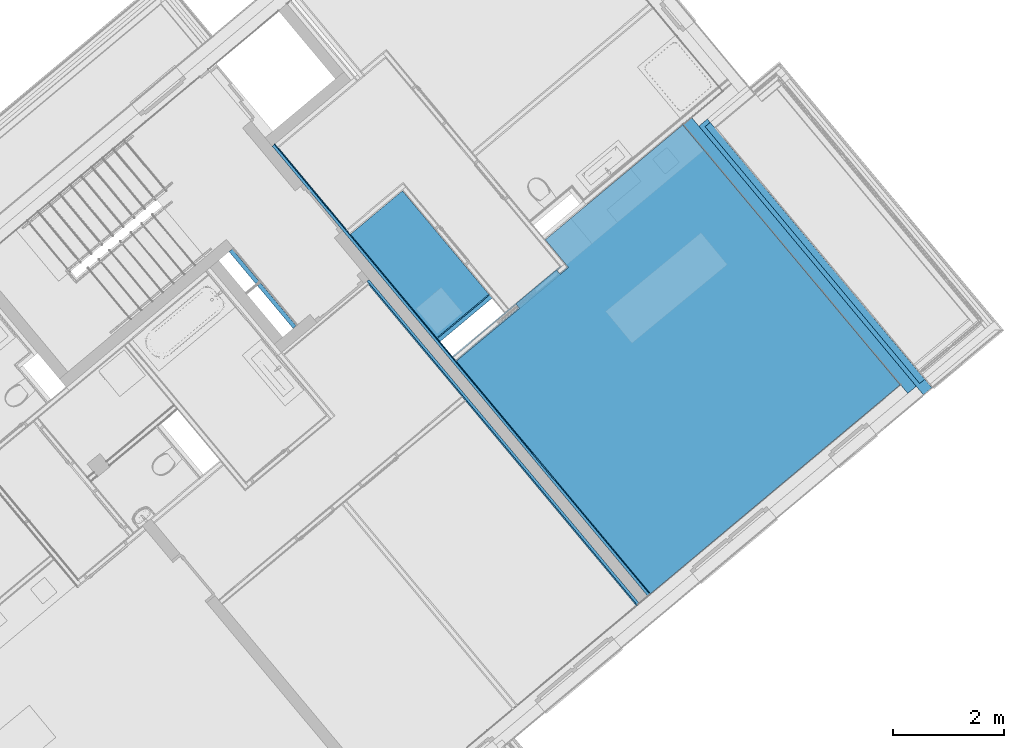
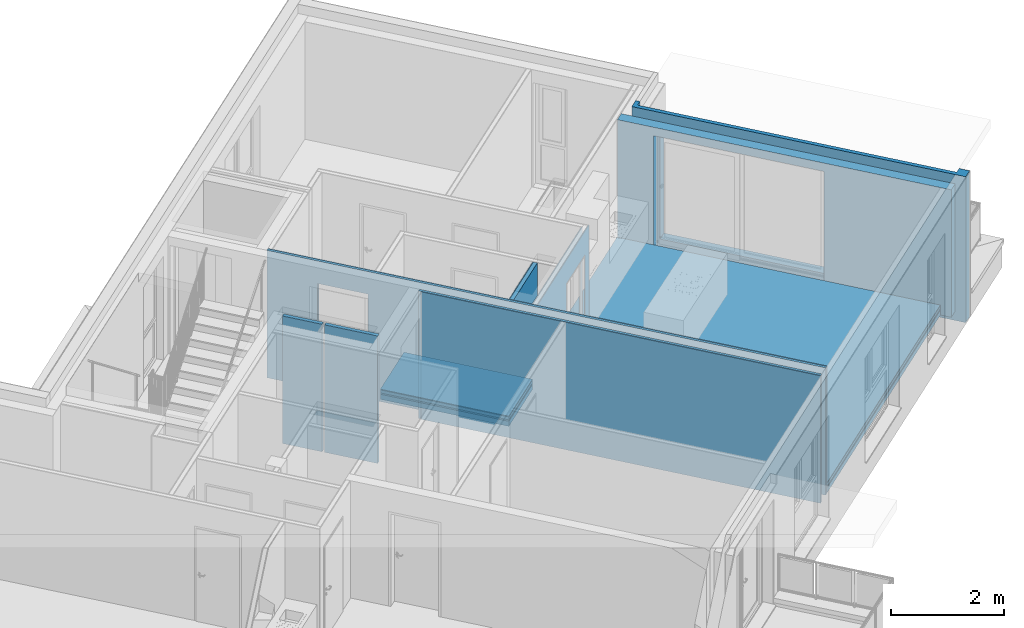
# One storey, part 29 of 53: 17 building element parts, 3 openings, 8 elements without a shape of their own, plus 2 elements that do not belong to this part.
"""IFC4 building model written with IfcOpenShell, lengths in metres."""

from ifc_helpers import new_model, entity, si_unit, converted_unit, derived_unit, direction, frame, origin_with_axes, place, context, subcontext, project, spatial, polygons, material, type_object, element, aggregate, save


model = new_model("IFC4")

# Units and contexts
model_context = context("Model", 3, precision=1e-05, world=origin_with_axes(), true_north=direction((0.0, 1.0)))
body_context = subcontext(model_context, "Body", "Model", "MODEL_VIEW")
ifc_project = project(units=[si_unit("LENGTHUNIT", "METRE"), si_unit("AREAUNIT", "SQUARE_METRE"), si_unit("VOLUMEUNIT", "CUBIC_METRE"), converted_unit("PLANEANGLEUNIT", "DEGREE", entity("IfcPlaneAngleMeasure", 0.0174532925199), si_unit("PLANEANGLEUNIT", "RADIAN"), dimensions=[0, 0, 0, 0, 0, 0, 0]), converted_unit("TIMEUNIT", "Year", entity("IfcTimeMeasure", 31556926.0), si_unit("TIMEUNIT", "SECOND"), dimensions=[0, 0, 1, 0, 0, 0, 0]), si_unit("MASSUNIT", "GRAM", prefix="KILO"), si_unit("THERMODYNAMICTEMPERATUREUNIT", "DEGREE_CELSIUS"), si_unit("LUMINOUSINTENSITYUNIT", "LUMEN"), si_unit("ENERGYUNIT", "JOULE", prefix="MEGA"), derived_unit("THERMALCONDUCTANCEUNIT", [(si_unit("POWERUNIT", "WATT"), 1), (si_unit("LENGTHUNIT", "METRE"), -1), (si_unit("THERMODYNAMICTEMPERATUREUNIT", "KELVIN"), -1)]), derived_unit("SPECIFICHEATCAPACITYUNIT", [(si_unit("ENERGYUNIT", "JOULE"), 1), (si_unit("MASSUNIT", "GRAM", prefix="KILO"), -1), (si_unit("THERMODYNAMICTEMPERATUREUNIT", "KELVIN"), -1)]), derived_unit("MASSDENSITYUNIT", [(si_unit("MASSUNIT", "GRAM", prefix="KILO"), 1), (si_unit("VOLUMEUNIT", "CUBIC_METRE"), -1)])], contexts=[model_context])

# Site, building, storey
site_placement = place(None, frame((-0.00153261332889, -0.00661245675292, 0.0), z_axis=(0.0, 0.0, 1.0), x_axis=(1.0, 0.0, 0.0)))
site = spatial("IfcSite", under=ifc_project, at=site_placement, Name="Gelände", CompositionType="ELEMENT")
building_placement = place(site_placement, origin_with_axes())
building = spatial("IfcBuilding", under=site, at=building_placement, Name="Gebäude", CompositionType="ELEMENT")
storey_placement = place(building_placement, frame((0.0, 0.0, 2.74), z_axis=(0.0, 0.0, 1.0), x_axis=(1.0, 0.0, 0.0)))
storey = spatial("IfcBuildingStorey", under=building, at=storey_placement, Name="OG1", CompositionType="ELEMENT", Elevation=2.74)

# Wall, opening, building element parts
wall_type_1 = type_object("IfcWallType", Name="IW LB 01 Leichtbautrennwand einfach 10,5 cm 105", PredefinedType="NOTDEFINED")
wall_1_placement = place(storey_placement, frame((4.75634479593, 20.7201278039, 0.0), z_axis=(0.0, 0.0, 1.0), x_axis=(0.767768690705, 0.640727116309, 0.0)))
wall_1 = element("IfcWall", 1, at=wall_1_placement, inside=storey, type_object=wall_type_1, Name="Wand-012", PredefinedType="NOTDEFINED")
opening_1_placement = place(wall_1_placement, frame((2.0266659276, 0.0, 0.22), z_axis=(0.0, 0.0, 1.0), x_axis=(1.0, 0.0, 0.0)))
element("IfcOpeningElement", 2, at=opening_1_placement, cuts=wall_1, Name="Tür-001", context=body_context, identifier="Reference", shape_type="Tessellation", body=[
    polygons([(-0.48, -1.32747549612, -0.22), (-0.48, -1.32747549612, 2.03), (-0.48, 1.43247549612, 2.03), (-0.48, 1.43247549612, -0.22), (-0.48, 0.09, 2.0), (-0.48, 0.015, 2.0), (-0.48, 0.015, 0.0), (-0.48, 0.09, 0.0), (0.48, -1.32747549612, -0.22), (0.48, -1.32747549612, 2.03), (0.48, 1.43247549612, 2.03), (0.48, 1.43247549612, -0.22), (-1.44, 0.09, 2.0), (-1.44, 0.015, 2.0), (-1.44, 0.015, 0.0), (-1.44, 0.09, 0.0)], [[[1, 2, 3, 4], [5, 6, 7, 8]], [[1, 9, 10, 2]], [[2, 10, 11, 3]], [[11, 12, 4, 3]], [[9, 1, 4, 12]], [[6, 5, 13, 14]], [[7, 6, 14, 15]], [[8, 7, 15, 16]], [[5, 8, 16, 13]], [[10, 9, 12, 11]], [[14, 13, 16, 15]]], closed=True),
])
ifc_material_1 = material(Name="Gipskarton")
building_element_part_1_placement = place(wall_1_placement, origin_with_axes())
building_element_part_1 = element("IfcBuildingElementPart", 3, at=building_element_part_1_placement, material=ifc_material_1, Name="Gipskarton", PredefinedType="NOTDEFINED", context=body_context, shape_type="Tessellation", body=[
    polygons([(1.5466659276, 0.09, 0.22), (1.5466659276, 0.09, 2.25), (2.5066659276, 0.09, 2.25), (2.5066659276, 0.09, 0.22), (2.50666590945, 0.09, 0.0), (2.6064142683, 0.09, 0.0), (2.6064142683, 0.09, 2.76), (0.0649861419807, 0.09, 2.76), (0.06498614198, 0.09, 0.0), (1.5466659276, 0.09, 0.0), (1.5466659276, 0.104999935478, 0.22), (1.5466659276, 0.104999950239, 2.25), (2.5066659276, 0.104999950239, 2.25), (2.5066659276, 0.104999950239, 0.22), (2.5066659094, 0.104999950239, 0.0), (2.60640484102, 0.105, 0.0), (2.60640484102, 0.105, 2.76), (0.0649838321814, 0.105, 2.76), (0.0649838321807, 0.105, 0.0), (1.5466659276, 0.104999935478, 0.0)], [[[1, 2, 3, 4, 5, 6, 7, 8, 9, 10]], [[2, 1, 11, 12]], [[3, 2, 12, 13]], [[4, 3, 13, 14]], [[4, 14, 15, 5]], [[15, 16, 6, 5]], [[17, 7, 6, 16]], [[18, 8, 7, 17]], [[9, 8, 18, 19]], [[10, 9, 19, 20]], [[11, 1, 10, 20]], [[12, 11, 20, 19, 18, 17, 16, 15, 14, 13]]], closed=True),
])
building_element_part_2_placement = place(wall_1_placement, origin_with_axes())
building_element_part_2 = element("IfcBuildingElementPart", 4, at=building_element_part_2_placement, material=ifc_material_1, Name="Gipskarton", PredefinedType="NOTDEFINED", context=body_context, shape_type="Tessellation", body=[
    polygons([(1.5466659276, 0.0, 0.22), (1.5466659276, 0.0, 2.25), (2.5066659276, 0.0, 2.25), (2.5066659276, 0.0, 0.22), (2.50666590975, 0.0, 0.0), (2.6964708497, 0.0, 0.0), (2.6964708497, 0.0, 2.76), (0.065000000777, 0.0, 2.76), (0.0650000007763, 0.0, 0.0), (1.5466659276, 0.0, 0.0), (1.5466659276, 0.015, 0.22), (1.5466659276, 0.015, 2.25), (2.5066659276, 0.015, 2.25), (2.5066659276, 0.015, 0.22), (2.5066659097, 0.015, 0.0), (2.69646142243, 0.015, 0.0), (2.69646142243, 0.015, 2.76), (0.0649976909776, 0.015, 2.76), (0.0649976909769, 0.015, 0.0), (1.5466659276, 0.015, 0.0)], [[[1, 2, 3, 4, 5, 6, 7, 8, 9, 10]], [[2, 1, 11, 12]], [[3, 2, 12, 13]], [[4, 3, 13, 14]], [[4, 14, 15, 5]], [[15, 16, 6, 5]], [[17, 7, 6, 16]], [[18, 8, 7, 17]], [[9, 8, 18, 19]], [[10, 9, 19, 20]], [[11, 1, 10, 20]], [[12, 11, 20, 19, 18, 17, 16, 15, 14, 13]]], closed=True),
])
aggregate(wall_1, [building_element_part_1, building_element_part_2])

wall_type_2 = type_object("IfcWallType", Name="AW EG 420", PredefinedType="NOTDEFINED")
wall_2_placement = place(storey_placement, frame((9.48027034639, 24.9670510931, -0.2), z_axis=(0.0, 0.0, 1.0), x_axis=(0.641209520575, -0.76736585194, 0.0)))
wall_2 = element("IfcWall", 5, at=wall_2_placement, inside=storey, type_object=wall_type_2, Name="Wand-002", PredefinedType="NOTDEFINED")
opening_2_placement = place(wall_2_placement, frame((1.87886023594, 0.0, 0.42), z_axis=(0.0, 0.0, 1.0), x_axis=(1.0, 0.0, 0.0)))
element("IfcOpeningElement", 6, at=opening_2_placement, cuts=wall_2, Name="Tür-001", context=body_context, identifier="Reference", shape_type="Tessellation", body=[
    polygons([(-1.56, -0.215, 2.31), (1.56, -0.215, 2.31), (1.56, 3.00714672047, 2.31), (-1.56, 3.00714672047, 2.31), (1.61, -0.215, -0.22), (-1.61, -0.215, -0.22), (-1.61, -0.215, 2.36), (1.61, -0.215, 2.36), (1.56, -0.215, 0.0), (-1.56, -0.215, 0.0), (1.56, 3.00714672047, 0.0), (-1.56, 3.00714672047, 0.0), (1.61, -3.42714672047, -0.22), (-1.61, -3.42714672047, -0.22), (-1.61, -3.42714672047, 2.36), (1.61, -3.42714672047, 2.36)], [[[1, 2, 3, 4]], [[5, 6, 7, 8], [9, 2, 1, 10]], [[2, 9, 11, 3]], [[3, 11, 12, 4]], [[10, 1, 4, 12]], [[6, 5, 13, 14]], [[7, 6, 14, 15]], [[8, 7, 15, 16]], [[5, 8, 16, 13]], [[9, 10, 12, 11]], [[15, 14, 13, 16]]], closed=True),
])
ifc_material_2 = material(Name="EPS 1")
building_element_part_3_placement = place(wall_2_placement, origin_with_axes())
building_element_part_3 = element("IfcBuildingElementPart", 7, at=building_element_part_3_placement, material=ifc_material_2, Name="EPS 1", PredefinedType="NOTDEFINED", context=body_context, shape_type="Tessellation", body=[
    polygons([(6.0946691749, -0.215, 3.16), (-0.2149998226, -0.215, 3.16), (-0.2149998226, -0.215, 0.0), (6.0946691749, -0.215, 0.0), (0.318860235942, -0.215, 0.42), (0.318860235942, -0.215, 2.73), (3.43886023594, -0.215, 2.73), (3.43886023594, -0.215, 0.42), (6.09453892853, -0.015, 3.16), (5.89466913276, -0.015, 3.16), (5.89466913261, -0.135000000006, 3.16), (-0.134999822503, -0.135000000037, 3.16), (-0.134999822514, -0.015, 3.16), (-0.214999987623, -0.015, 3.16), (-0.214999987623, -0.015, 0.0), (-0.134999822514, -0.015, 0.0), (-0.134999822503, -0.135000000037, 0.0), (5.89466913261, -0.135000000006, 0.0), (5.89466913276, -0.015, 0.0), (6.09453892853, -0.015, 0.0), (0.318860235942, -0.015, 0.42), (0.318860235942, -0.015, 2.73), (3.43886023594, -0.015, 2.73), (3.43886023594, -0.015, 0.42), (-0.134999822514, -0.015, 2.96), (5.89466913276, -0.015, 2.96), (5.89466913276, -0.015, 0.2), (-0.134999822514, -0.015, 0.2), (5.89466913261, -0.135000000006, 2.96), (-0.134999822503, -0.135000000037, 2.96), (-0.134999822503, -0.135000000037, 0.2), (5.89466913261, -0.135000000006, 0.2)], [[[1, 2, 3, 4], [5, 6, 7, 8]], [[9, 10, 11, 12, 13, 14, 2, 1]], [[2, 14, 15, 3]], [[15, 16, 17, 18, 19, 20, 4, 3]], [[1, 4, 20, 9]], [[21, 22, 6, 5]], [[22, 23, 7, 6]], [[23, 24, 8, 7]], [[24, 21, 5, 8]], [[15, 14, 13, 25, 26, 10, 9, 20, 19, 27, 28, 16], [21, 24, 23, 22]], [[10, 26, 29, 11]], [[11, 29, 30, 12]], [[13, 12, 30, 25]], [[28, 31, 17, 16]], [[17, 31, 32, 18]], [[19, 18, 32, 27]], [[25, 30, 29, 26]], [[27, 32, 31, 28]]], closed=True),
])
ifc_material_3 = material(Name="Stahlbeton Wand")
building_element_part_4_placement = place(wall_2_placement, origin_with_axes())
building_element_part_4 = element("IfcBuildingElementPart", 8, at=building_element_part_4_placement, material=ifc_material_3, Name="Stahlbeton Wand", PredefinedType="NOTDEFINED", context=body_context, shape_type="Tessellation", body=[
    polygons([(0.268860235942, -0.215, 2.78), (0.268860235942, -0.215, 0.2), (-0.214999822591, -0.215000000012, 0.2), (-0.414999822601, -0.215, 0.2), (-0.414999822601, -0.215, 2.96), (-0.214999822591, -0.215000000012, 2.96), (5.89466913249, -0.215000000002, 2.96), (5.89466913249, -0.215000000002, 0.2), (3.48886023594, -0.215, 0.2), (3.48886023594, -0.215, 2.78), (0.268860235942, -0.415, 2.78), (0.268860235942, -0.415, 0.2), (-0.414999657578, -0.415, 0.2), (-0.414999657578, -0.415, 2.96), (5.89479937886, -0.415, 2.96), (5.89479937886, -0.415, 0.2), (3.48886023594, -0.415, 0.2), (3.48886023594, -0.415, 2.78)], [[[1, 2, 3, 4, 5, 6, 7, 8, 9, 10]], [[2, 1, 11, 12]], [[2, 12, 13, 4, 3]], [[5, 4, 13, 14]], [[6, 5, 14, 15, 7]], [[15, 16, 8, 7]], [[17, 9, 8, 16]], [[10, 9, 17, 18]], [[1, 10, 18, 11]], [[18, 17, 16, 15, 14, 13, 12, 11]]], closed=True),
])
aggregate(wall_2, [building_element_part_3, building_element_part_4])

# Wall, building element parts
wall_type_3 = type_object("IfcWallType", Name="LB 9,0 cm einfache Vorsatzschale  90", PredefinedType="NOTDEFINED")
wall_3_placement = place(storey_placement, frame((4.46491081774, 21.0692371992, 0.0), z_axis=(0.0, 0.0, 1.0), x_axis=(0.767365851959, 0.641209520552, 0.0)))
wall_3 = element("IfcWall", 9, at=wall_3_placement, inside=storey, type_object=wall_type_3, Name="Wand-006", PredefinedType="NOTDEFINED")
building_element_part_5_placement = place(wall_3_placement, origin_with_axes())
building_element_part_5 = element("IfcBuildingElementPart", 10, at=building_element_part_5_placement, material=ifc_material_1, Name="Gipskarton", PredefinedType="NOTDEFINED", context=body_context, shape_type="Tessellation", body=[
    polygons([(0.0650427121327, 0.09, 2.76), (0.0650355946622, 0.075, 2.76), (1.28718371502, 0.075, 2.76), (1.28718371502, 0.09, 2.76), (0.0650355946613, 0.075, 0.0), (0.0650427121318, 0.09, 0.0), (1.28718371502, 0.075, 0.0), (1.28718371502, 0.09, 0.0)], [[[1, 2, 3, 4]], [[5, 2, 1, 6]], [[2, 5, 7, 3]], [[4, 3, 7, 8]], [[6, 1, 4, 8]], [[5, 6, 8, 7]]], closed=True),
])
ifc_material_4 = material(Name="Mineralwolle weich")
building_element_part_6_placement = place(wall_3_placement, origin_with_axes())
building_element_part_6 = element("IfcBuildingElementPart", 11, at=building_element_part_6_placement, material=ifc_material_4, Name="Mineralwolle weich", PredefinedType="NOTDEFINED", context=body_context, shape_type="Tessellation", body=[
    polygons([(1.28718371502, 0.075, 2.76), (0.0650355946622, 0.075, 2.76), (0.0650000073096, 0.0, 2.76), (1.28718371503, 0.0, 2.76), (1.28718371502, 0.075, 0.0), (0.0650355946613, 0.075, 0.0), (0.0650000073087, 0.0, 0.0), (1.28718371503, 0.0, 0.0)], [[[1, 2, 3, 4]], [[5, 6, 2, 1]], [[6, 7, 3, 2]], [[4, 3, 7, 8]], [[5, 1, 4, 8]], [[8, 7, 6, 5]]], closed=True),
])
aggregate(wall_3, [building_element_part_5, building_element_part_6])

wall_type_4 = type_object("IfcWallType", Name="LB 6,5 cm einfach Vorsatzschale 65", PredefinedType="NOTDEFINED")
wall_4_placement = place(storey_placement, frame((3.22700750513, 22.1386079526, 0.0), z_axis=(0.0, 0.0, 1.0), x_axis=(0.640845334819, -0.767670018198, 0.0)))
wall_4 = element("IfcWall", 12, at=wall_4_placement, inside=storey, type_object=wall_type_4, Name="Wand-005", PredefinedType="NOTDEFINED")
building_element_part_7_placement = place(wall_4_placement, origin_with_axes())
building_element_part_7 = element("IfcBuildingElementPart", 13, at=building_element_part_7_placement, material=ifc_material_4, Name="Mineralwolle weich", PredefinedType="NOTDEFINED", context=body_context, shape_type="Tessellation", body=[
    polygons([(7.53296611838, 0.065, 2.76), (-0.0650000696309, 0.065, 2.76), (-0.0650000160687, 0.015, 2.76), (7.5330224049, 0.015, 2.76), (7.53296611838, 0.065, 0.0), (-0.0650000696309, 0.065, 0.0), (-0.0650000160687, 0.015, 0.0), (7.5330224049, 0.015, 0.0)], [[[1, 2, 3, 4]], [[5, 6, 2, 1]], [[3, 2, 6, 7]], [[4, 3, 7, 8]], [[4, 8, 5, 1]], [[8, 7, 6, 5]]], closed=True),
])
building_element_part_8_placement = place(wall_4_placement, origin_with_axes())
building_element_part_8 = element("IfcBuildingElementPart", 14, at=building_element_part_8_placement, material=ifc_material_1, Name="Gipskarton", PredefinedType="NOTDEFINED", context=body_context, shape_type="Tessellation", body=[
    polygons([(7.5330224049, 0.015, 2.76), (-0.0150000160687, 0.015, 2.76), (-0.015, 0.0, 2.76), (7.53303929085, 0.0, 2.76), (7.5330224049, 0.015, 0.0), (-0.0150000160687, 0.015, 0.0), (-0.015, 0.0, 0.0), (7.53303929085, 0.0, 0.0)], [[[1, 2, 3, 4]], [[5, 6, 2, 1]], [[3, 2, 6, 7]], [[4, 3, 7, 8]], [[4, 8, 5, 1]], [[8, 7, 6, 5]]], closed=True),
])
aggregate(wall_4, [building_element_part_7, building_element_part_8])

# Wall, building element part
wall_type_5 = type_object("IfcWallType", Name="LB 10,5 cm doppelte Vorsatzschale Bad 105", PredefinedType="NOTDEFINED")
wall_5_placement = place(storey_placement, frame((0.71304114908, 22.7317569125, 0.0), z_axis=(0.0, 0.0, 1.0), x_axis=(0.640845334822, -0.767670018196, 0.0)))
wall_5 = element("IfcWall", 15, at=wall_5_placement, inside=storey, type_object=wall_type_5, Name="Wand-004", PredefinedType="NOTDEFINED")
building_element_part_9_placement = place(wall_5_placement, origin_with_axes())
building_element_part_9 = element("IfcBuildingElementPart", 16, at=building_element_part_9_placement, material=ifc_material_4, Name="Mineralwolle weich", PredefinedType="NOTDEFINED", context=body_context, shape_type="Tessellation", body=[
    polygons([(0.750662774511, 0.075, 0.0), (0.750662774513, 0.0, 0.0), (0.0, 0.0, 0.0), (0.0, 0.075, 0.0), (0.750662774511, 0.075, 2.76), (0.750662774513, 0.0, 2.76), (0.0, 0.0, 2.76), (0.0, 0.075, 2.76)], [[[1, 2, 3, 4]], [[2, 1, 5, 6]], [[2, 6, 7, 3]], [[8, 4, 3, 7]], [[5, 1, 4, 8]], [[6, 5, 8, 7]]], closed=True),
    polygons([(1.80140621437, 0.075, 0.0), (1.80140621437, 0.0, 0.0), (0.795662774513, 0.0, 0.0), (0.795662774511, 0.075, 0.0), (1.80140621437, 0.075, 2.76), (1.80140621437, 0.0, 2.76), (0.795662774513, 0.0, 2.76), (0.795662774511, 0.075, 2.76)], [[[1, 2, 3, 4]], [[2, 1, 5, 6]], [[2, 6, 7, 3]], [[8, 4, 3, 7]], [[5, 1, 4, 8]], [[6, 5, 8, 7]]], closed=True),
])
aggregate(wall_5, [building_element_part_9])

# Wall, opening, building element parts
wall_6_placement = place(storey_placement, frame((8.52691718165, 16.2033509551, 0.0), z_axis=(0.0, 0.0, 1.0), x_axis=(-0.640845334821, 0.767670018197, 0.0)))
wall_6 = element("IfcWall", 17, at=wall_6_placement, inside=storey, type_object=wall_type_4, Name="Wand-004", PredefinedType="NOTDEFINED")
opening_3_placement = place(wall_6_placement, frame((9.5452099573, 0.0, 0.22), z_axis=(0.0, 0.0, 1.0), x_axis=(1.0, 0.0, 0.0)))
element("IfcOpeningElement", 18, at=opening_3_placement, cuts=wall_6, Name="Tür-001", context=body_context, identifier="Reference", shape_type="Tessellation", body=[
    polygons([(0.475, 5.40229540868, 2.05), (0.475, 5.40229540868, -0.22), (-0.475, 5.40229540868, -0.22), (-0.475, 5.40229540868, 2.05), (0.475, -5.46729540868, 2.05), (0.475, -5.46729540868, -0.22), (-0.475, -5.46729540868, -0.22), (-0.475, -5.46729540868, 2.05)], [[[1, 2, 3, 4]], [[5, 6, 2, 1]], [[6, 7, 3, 2]], [[7, 8, 4, 3]], [[8, 5, 1, 4]], [[7, 6, 5, 8]]], closed=True),
])
building_element_part_10_placement = place(wall_6_placement, origin_with_axes())
building_element_part_10 = element("IfcBuildingElementPart", 19, at=building_element_part_10_placement, material=ifc_material_4, Name="Mineralwolle weich", PredefinedType="NOTDEFINED", context=body_context, shape_type="Tessellation", body=[
    polygons([(10.0202099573, -0.05, 2.27), (10.0202099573, -0.05, 0.22), (10.0202099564, -0.05, 0.0), (10.9791855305, -0.05, 0.0), (10.9791855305, -0.05, 2.76), (0.420056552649, -0.05, 2.76), (0.420056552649, -0.05, 0.0), (9.07020996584, -0.05, 0.0), (9.0702099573, -0.05, 0.22), (9.0702099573, -0.05, 2.27), (10.0202099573, 1.37721229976e-08, 2.27), (10.0202099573, 2.38013022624e-08, 0.22), (10.0202099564, 2.38013022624e-08, 0.0), (10.9791855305, 0.0, 0.0), (10.9791855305, 0.0, 2.76), (0.420000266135, 0.0, 2.76), (0.420000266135, 0.0, 0.0), (9.07020996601, 1.37716043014e-08, 0.0), (9.0702099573, 1.37716043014e-08, 0.22), (9.0702099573, 1.37716043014e-08, 2.27)], [[[1, 2, 3, 4, 5, 6, 7, 8, 9, 10]], [[2, 1, 11, 12]], [[2, 12, 13, 3]], [[13, 14, 4, 3]], [[15, 5, 4, 14]], [[6, 5, 15, 16]], [[7, 6, 16, 17]], [[8, 7, 17, 18]], [[19, 9, 8, 18]], [[10, 9, 19, 20]], [[1, 10, 20, 11]], [[20, 19, 18, 17, 16, 15, 14, 13, 12, 11]]], closed=True),
])
building_element_part_11_placement = place(wall_6_placement, origin_with_axes())
building_element_part_11 = element("IfcBuildingElementPart", 20, at=building_element_part_11_placement, material=ifc_material_1, Name="Gipskarton", PredefinedType="NOTDEFINED", context=body_context, shape_type="Tessellation", body=[
    polygons([(10.0202099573, -0.065, 2.27), (10.0202099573, -0.065, 0.22), (10.0202099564, -0.065, 0.0), (10.9791855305, -0.065, 0.0), (10.9791855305, -0.065, 2.76), (0.420073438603, -0.065, 2.76), (0.420073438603, -0.065, 0.0), (9.07020996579, -0.065, 0.0), (9.0702099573, -0.065, 0.22), (9.0702099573, -0.065, 2.27), (10.0202099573, -0.05, 2.27), (10.0202099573, -0.05, 0.22), (10.0202099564, -0.05, 0.0), (10.9791855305, -0.05, 0.0), (10.9791855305, -0.05, 2.76), (0.420056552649, -0.05, 2.76), (0.420056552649, -0.05, 0.0), (9.07020996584, -0.05, 0.0), (9.0702099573, -0.05, 0.22), (9.0702099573, -0.05, 2.27)], [[[1, 2, 3, 4, 5, 6, 7, 8, 9, 10]], [[2, 1, 11, 12]], [[2, 12, 13, 3]], [[13, 14, 4, 3]], [[15, 5, 4, 14]], [[6, 5, 15, 16]], [[7, 6, 16, 17]], [[8, 7, 17, 18]], [[19, 9, 8, 18]], [[10, 9, 19, 20]], [[1, 10, 20, 11]], [[20, 19, 18, 17, 16, 15, 14, 13, 12, 11]]], closed=True),
])
aggregate(wall_6, [building_element_part_10, building_element_part_11])

# Covering, building element parts
covering_type_1 = type_object("IfcCoveringType", Name="DE 01 Decke Wohnung/Wohnung Parkett 220", PredefinedType="NOTDEFINED")
covering_1_placement = place(storey_placement, frame((4.8062497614, 20.7617750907, 0.22), z_axis=(0.0, 0.0, 1.0), x_axis=(1.0, 0.0, 0.0)))
covering_1 = element("IfcCovering", 21, at=covering_1_placement, inside=storey, type_object=covering_type_1, Name="Decke-005", PredefinedType="NOTDEFINED")
ifc_material_5 = material(Name="Parkett")
building_element_part_12_placement = place(covering_1_placement, origin_with_axes())
building_element_part_12 = element("IfcBuildingElementPart", 22, at=building_element_part_12_placement, material=ifc_material_5, Name="Parkett", PredefinedType="NOTDEFINED", context=body_context, shape_type="Tessellation", body=[
    polygons([(0.0, 0.0, -0.015), (3.5013638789, -4.19429140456, -0.015), (3.5013638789, -4.19429140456, 0.0), (0.0, 0.0, 0.0), (1.13757667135, 0.94934347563, -0.015), (1.07030040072, 1.02995917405, -0.015), (1.80735832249, 1.64505720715, -0.015), (1.87463459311, 1.56444150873, -0.015), (2.02036092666, 1.68605464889, -0.015), (1.60254077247, 2.18607990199, -0.015), (4.08241896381, 4.25826166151, -0.015), (8.00008249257, -0.43019226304, -0.015), (8.00008249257, -0.43019226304, 0.0), (1.13757667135, 0.94934347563, 0.0), (4.08241896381, 4.25826166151, 0.0), (1.60254077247, 2.18607990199, 0.0), (2.02036092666, 1.68605464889, 0.0), (1.87463459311, 1.56444150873, 0.0), (1.80735832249, 1.64505720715, 0.0), (1.07030040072, 1.02995917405, 0.0)], [[[1, 2, 3, 4]], [[2, 1, 5, 6, 7, 8, 9, 10, 11, 12]], [[2, 12, 13, 3]], [[14, 4, 3, 13, 15, 16, 17, 18, 19, 20]], [[5, 1, 4, 14]], [[6, 5, 14, 20]], [[7, 6, 20, 19]], [[8, 7, 19, 18]], [[9, 8, 18, 17]], [[10, 9, 17, 16]], [[11, 10, 16, 15]], [[12, 11, 15, 13]]], closed=True),
])
ifc_material_6 = material(Name="Estrich")
building_element_part_13_placement = place(covering_1_placement, origin_with_axes())
building_element_part_13 = element("IfcBuildingElementPart", 23, at=building_element_part_13_placement, material=ifc_material_6, Name="Estrich", PredefinedType="NOTDEFINED", context=body_context, shape_type="Tessellation", body=[
    polygons([(0.0, 0.0, -0.08), (3.5013638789, -4.19429140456, -0.08), (3.5013638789, -4.19429140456, -0.015), (0.0, 0.0, -0.015), (1.13757667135, 0.94934347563, -0.08), (1.07030040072, 1.02995917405, -0.08), (1.80735832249, 1.64505720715, -0.08), (1.87463459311, 1.56444150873, -0.08), (2.02036092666, 1.68605464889, -0.08), (1.60254077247, 2.18607990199, -0.08), (4.08241896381, 4.25826166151, -0.08), (8.00008249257, -0.43019226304, -0.08), (8.00008249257, -0.43019226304, -0.015), (1.13757667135, 0.94934347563, -0.015), (4.08241896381, 4.25826166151, -0.015), (1.60254077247, 2.18607990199, -0.015), (2.02036092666, 1.68605464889, -0.015), (1.87463459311, 1.56444150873, -0.015), (1.80735832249, 1.64505720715, -0.015), (1.07030040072, 1.02995917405, -0.015)], [[[1, 2, 3, 4]], [[2, 1, 5, 6, 7, 8, 9, 10, 11, 12]], [[2, 12, 13, 3]], [[14, 4, 3, 13, 15, 16, 17, 18, 19, 20]], [[5, 1, 4, 14]], [[6, 5, 14, 20]], [[7, 6, 20, 19]], [[8, 7, 19, 18]], [[9, 8, 18, 17]], [[10, 9, 17, 16]], [[11, 10, 16, 15]], [[12, 11, 15, 13]]], closed=True),
])
ifc_material_7 = material(Name="Trittschalldämmung")
building_element_part_14_placement = place(covering_1_placement, origin_with_axes())
building_element_part_14 = element("IfcBuildingElementPart", 24, at=building_element_part_14_placement, material=ifc_material_7, Name="Trittschalldämmung", PredefinedType="NOTDEFINED", context=body_context, shape_type="Tessellation", body=[
    polygons([(0.0, 0.0, -0.11), (3.5013638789, -4.19429140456, -0.11), (3.5013638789, -4.19429140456, -0.08), (0.0, 0.0, -0.08), (1.13757667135, 0.94934347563, -0.11), (1.07030040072, 1.02995917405, -0.11), (1.80735832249, 1.64505720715, -0.11), (1.87463459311, 1.56444150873, -0.11), (2.02036092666, 1.68605464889, -0.11), (1.60254077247, 2.18607990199, -0.11), (4.08241896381, 4.25826166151, -0.11), (8.00008249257, -0.43019226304, -0.11), (8.00008249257, -0.43019226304, -0.08), (1.13757667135, 0.94934347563, -0.08), (4.08241896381, 4.25826166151, -0.08), (1.60254077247, 2.18607990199, -0.08), (2.02036092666, 1.68605464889, -0.08), (1.87463459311, 1.56444150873, -0.08), (1.80735832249, 1.64505720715, -0.08), (1.07030040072, 1.02995917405, -0.08)], [[[1, 2, 3, 4]], [[2, 1, 5, 6, 7, 8, 9, 10, 11, 12]], [[2, 12, 13, 3]], [[14, 4, 3, 13, 15, 16, 17, 18, 19, 20]], [[5, 1, 4, 14]], [[6, 5, 14, 20]], [[7, 6, 20, 19]], [[8, 7, 19, 18]], [[9, 8, 18, 17]], [[10, 9, 17, 16]], [[11, 10, 16, 15]], [[12, 11, 15, 13]]], closed=True),
])
ifc_material_8 = material(Name="Schüttung")
building_element_part_15_placement = place(covering_1_placement, origin_with_axes())
building_element_part_15 = element("IfcBuildingElementPart", 25, at=building_element_part_15_placement, material=ifc_material_8, Name="Schüttung", PredefinedType="NOTDEFINED", context=body_context, shape_type="Tessellation", body=[
    polygons([(0.0, 0.0, -0.11), (0.0, 0.0, -0.22), (3.5013638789, -4.19429140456, -0.22), (3.5013638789, -4.19429140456, -0.11), (1.13757667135, 0.94934347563, -0.11), (1.13757667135, 0.94934347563, -0.22), (1.07030040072, 1.02995917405, -0.22), (1.80735832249, 1.64505720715, -0.22), (1.87463459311, 1.56444150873, -0.22), (2.02036092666, 1.68605464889, -0.22), (1.60254077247, 2.18607990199, -0.22), (4.08241896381, 4.25826166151, -0.22), (8.00008249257, -0.43019226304, -0.22), (8.00008249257, -0.43019226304, -0.11), (4.08241896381, 4.25826166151, -0.11), (1.60254077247, 2.18607990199, -0.11), (2.02036092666, 1.68605464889, -0.11), (1.87463459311, 1.56444150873, -0.11), (1.80735832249, 1.64505720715, -0.11), (1.07030040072, 1.02995917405, -0.11)], [[[1, 2, 3, 4]], [[5, 6, 2, 1]], [[3, 2, 6, 7, 8, 9, 10, 11, 12, 13]], [[4, 3, 13, 14]], [[5, 1, 4, 14, 15, 16, 17, 18, 19, 20]], [[20, 7, 6, 5]], [[19, 8, 7, 20]], [[18, 9, 8, 19]], [[17, 10, 9, 18]], [[16, 11, 10, 17]], [[15, 12, 11, 16]], [[14, 13, 12, 15]]], closed=True),
])
aggregate(covering_1, [building_element_part_12, building_element_part_13, building_element_part_14, building_element_part_15])

covering_type_2 = type_object("IfcCoveringType", Name="DE 01 Decke Wohnung/Wohnung Fließen 220", PredefinedType="NOTDEFINED")
covering_2_placement = place(storey_placement, frame((2.89957040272, 23.0457904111, 0.22), z_axis=(0.0, 0.0, 1.0), x_axis=(1.0, 0.0, 0.0)))
covering_2 = element("IfcCovering", 26, at=covering_2_placement, inside=storey, type_object=covering_type_2, Name="Decke-001", PredefinedType="NOTDEFINED")
ifc_material_9 = material(Name="Fliesen")
building_element_part_16_placement = place(covering_2_placement, origin_with_axes())
building_element_part_16 = element("IfcBuildingElementPart", 27, at=building_element_part_16_placement, material=ifc_material_9, Name="Fliesen", PredefinedType="NOTDEFINED", context=body_context, shape_type="Tessellation", body=[
    polygons([(1.55754311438, -1.86578427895, -0.015), (1.55754311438, -1.86578427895, 0.0), (0.0, 0.0, 0.0), (0.0, 0.0, -0.015), (2.49537238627, -1.0821358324, -0.015), (2.49537238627, -1.0821358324, 0.0), (0.936944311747, 0.782908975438, 0.0), (0.936944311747, 0.782908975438, -0.015)], [[[1, 2, 3, 4]], [[5, 6, 2, 1]], [[3, 2, 6, 7]], [[4, 3, 7, 8]], [[4, 8, 5, 1]], [[8, 7, 6, 5]]], closed=True),
])
building_element_part_17_placement = place(covering_2_placement, origin_with_axes())
building_element_part_17 = element("IfcBuildingElementPart", 28, at=building_element_part_17_placement, material=ifc_material_6, Name="Estrich", PredefinedType="NOTDEFINED", context=body_context, shape_type="Tessellation", body=[
    polygons([(1.55754311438, -1.86578427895, -0.08), (1.55754311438, -1.86578427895, -0.015), (0.0, 0.0, -0.015), (0.0, 0.0, -0.08), (2.49537238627, -1.0821358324, -0.08), (2.49537238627, -1.0821358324, -0.015), (0.936944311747, 0.782908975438, -0.015), (0.936944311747, 0.782908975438, -0.08)], [[[1, 2, 3, 4]], [[5, 6, 2, 1]], [[3, 2, 6, 7]], [[4, 3, 7, 8]], [[4, 8, 5, 1]], [[8, 7, 6, 5]]], closed=True),
])
building_element_part_18_placement = place(covering_2_placement, origin_with_axes())
building_element_part_18 = element("IfcBuildingElementPart", 29, at=building_element_part_18_placement, material=ifc_material_7, Name="Trittschalldämmung", PredefinedType="NOTDEFINED", context=body_context, shape_type="Tessellation", body=[
    polygons([(1.55754311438, -1.86578427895, -0.11), (1.55754311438, -1.86578427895, -0.08), (0.0, 0.0, -0.08), (0.0, 0.0, -0.11), (2.49537238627, -1.0821358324, -0.11), (2.49537238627, -1.0821358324, -0.08), (0.936944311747, 0.782908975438, -0.08), (0.936944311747, 0.782908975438, -0.11)], [[[1, 2, 3, 4]], [[5, 6, 2, 1]], [[3, 2, 6, 7]], [[4, 3, 7, 8]], [[4, 8, 5, 1]], [[8, 7, 6, 5]]], closed=True),
])
building_element_part_19_placement = place(covering_2_placement, origin_with_axes())
building_element_part_19 = element("IfcBuildingElementPart", 30, at=building_element_part_19_placement, material=ifc_material_8, Name="Schüttung", PredefinedType="NOTDEFINED", context=body_context, shape_type="Tessellation", body=[
    polygons([(0.0, 0.0, -0.22), (1.55754311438, -1.86578427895, -0.22), (1.55754311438, -1.86578427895, -0.11), (0.0, 0.0, -0.11), (0.936944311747, 0.782908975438, -0.22), (2.49537238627, -1.0821358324, -0.22), (2.49537238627, -1.0821358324, -0.11), (0.936944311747, 0.782908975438, -0.11)], [[[1, 2, 3, 4]], [[1, 5, 6, 2]], [[2, 6, 7, 3]], [[4, 3, 7, 8]], [[5, 1, 4, 8]], [[6, 5, 8, 7]]], closed=True),
])
aggregate(covering_2, [building_element_part_16, building_element_part_17, building_element_part_18, building_element_part_19])

save(model, "model.ifc")
